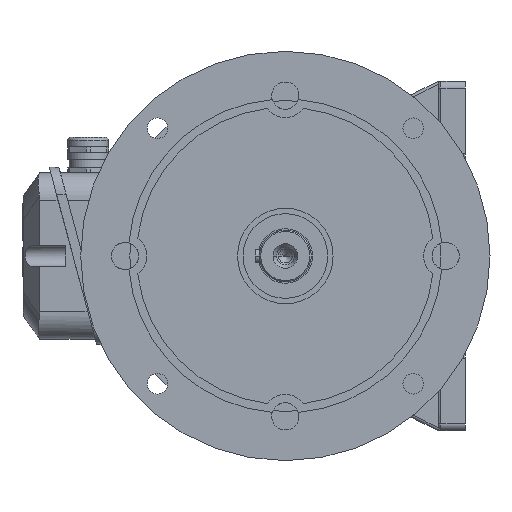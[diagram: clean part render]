
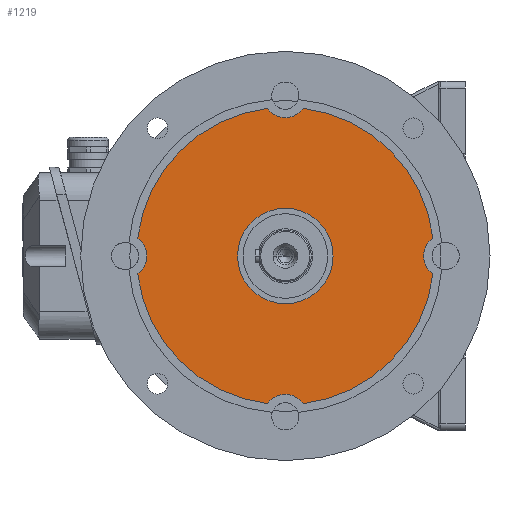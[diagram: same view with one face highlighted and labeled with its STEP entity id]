
A CAD part, left-side view. The second image highlights one B-rep face of the part: STEP entity #1219.
In plain terms, the highlighted planar face has unit normal (-1, 0, 0).
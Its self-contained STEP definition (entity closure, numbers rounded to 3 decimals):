
#95 = AXIS2_PLACEMENT_3D ( 'NONE', #12343, #17851, #25900 ) ;
#198 = CARTESIAN_POINT ( 'NONE',  ( -59.2, -108.204, 13.145 ) ) ;
#655 = CARTESIAN_POINT ( 'NONE',  ( -59.2, 0., 0. ) ) ;
#751 = CARTESIAN_POINT ( 'NONE',  ( -59.2, 0., 117.5 ) ) ;
#1219 = ADVANCED_FACE ( 'NONE', ( #31843, #27973 ), #6813, .T. ) ;
#1497 = AXIS2_PLACEMENT_3D ( 'NONE', #21139, #13261, #7383 ) ;
#1755 = ORIENTED_EDGE ( 'NONE', *, *, #23645, .T. ) ;
#1894 = CARTESIAN_POINT ( 'NONE',  ( -59.2, 35., 0. ) ) ;
#2282 = EDGE_CURVE ( 'NONE', #13662, #15485, #24876, .T. ) ;
#2551 = EDGE_CURVE ( 'NONE', #28121, #11618, #7501, .T. ) ;
#2573 = CIRCLE ( 'NONE', #30008, 16.1 ) ;
#3187 = DIRECTION ( 'NONE',  ( 0., -1., 0. ) ) ;
#3362 = AXIS2_PLACEMENT_3D ( 'NONE', #20047, #3668, #14945 ) ;
#3368 = CIRCLE ( 'NONE', #4512, 16.1 ) ;
#3461 = AXIS2_PLACEMENT_3D ( 'NONE', #30332, #16861, #16507 ) ;
#3638 = VERTEX_POINT ( 'NONE', #1894 ) ;
#3668 = DIRECTION ( 'NONE',  ( 1., 0., 0. ) ) ;
#4145 = ORIENTED_EDGE ( 'NONE', *, *, #4175, .T. ) ;
#4175 = EDGE_CURVE ( 'NONE', #32819, #15485, #26519, .T. ) ;
#4202 = DIRECTION ( 'NONE',  ( 1., 0., 0. ) ) ;
#4229 = CARTESIAN_POINT ( 'NONE',  ( -59.2, 0., -117.5 ) ) ;
#4476 = VERTEX_POINT ( 'NONE', #15171 ) ;
#4512 = AXIS2_PLACEMENT_3D ( 'NONE', #4229, #9743, #31231 ) ;
#4770 = DIRECTION ( 'NONE',  ( 1., 0., 0. ) ) ;
#5524 = ORIENTED_EDGE ( 'NONE', *, *, #24634, .F. ) ;
#5723 = EDGE_CURVE ( 'NONE', #9887, #3638, #11390, .T. ) ;
#6036 = DIRECTION ( 'NONE',  ( 1., 0., 0. ) ) ;
#6077 = VERTEX_POINT ( 'NONE', #26429 ) ;
#6813 = PLANE ( 'NONE',  #95 ) ;
#7383 = DIRECTION ( 'NONE',  ( 0., 1., 0. ) ) ;
#7501 = CIRCLE ( 'NONE', #3461, 109. ) ;
#7527 = DIRECTION ( 'NONE',  ( 0., -1., 0. ) ) ;
#8153 = EDGE_CURVE ( 'NONE', #6077, #11618, #2573, .T. ) ;
#8345 = AXIS2_PLACEMENT_3D ( 'NONE', #655, #19910, #19454 ) ;
#8746 = EDGE_LOOP ( 'NONE', ( #1755, #23576, #28208, #5524, #4145, #25223, #26062, #23333, #19835 ) ) ;
#8949 = AXIS2_PLACEMENT_3D ( 'NONE', #10060, #29266, #18426 ) ;
#9065 = EDGE_CURVE ( 'NONE', #3638, #9887, #11090, .T. ) ;
#9195 = CARTESIAN_POINT ( 'NONE',  ( -59.2, 117.5, 0. ) ) ;
#9585 = CARTESIAN_POINT ( 'NONE',  ( -59.2, 108.204, 13.145 ) ) ;
#9743 = DIRECTION ( 'NONE',  ( 1., 0., 0. ) ) ;
#9748 = DIRECTION ( 'NONE',  ( 1., 0., 0. ) ) ;
#9887 = VERTEX_POINT ( 'NONE', #17649 ) ;
#10060 = CARTESIAN_POINT ( 'NONE',  ( -59.2, 0., 0. ) ) ;
#10289 = CIRCLE ( 'NONE', #3362, 109. ) ;
#10709 = VERTEX_POINT ( 'NONE', #198 ) ;
#10976 = CARTESIAN_POINT ( 'NONE',  ( -59.2, 13.145, 108.204 ) ) ;
#11090 = CIRCLE ( 'NONE', #1497, 35. ) ;
#11145 = ORIENTED_EDGE ( 'NONE', *, *, #9065, .T. ) ;
#11390 = CIRCLE ( 'NONE', #8345, 35. ) ;
#11618 = VERTEX_POINT ( 'NONE', #17696 ) ;
#12147 = CARTESIAN_POINT ( 'NONE',  ( -59.2, 117.5, 0. ) ) ;
#12343 = CARTESIAN_POINT ( 'NONE',  ( -59.2, 35., 0. ) ) ;
#13261 = DIRECTION ( 'NONE',  ( 1., 0., 0. ) ) ;
#13662 = VERTEX_POINT ( 'NONE', #9585 ) ;
#14100 = CIRCLE ( 'NONE', #8949, 109. ) ;
#14403 = CARTESIAN_POINT ( 'NONE',  ( -59.2, -13.145, -108.204 ) ) ;
#14945 = DIRECTION ( 'NONE',  ( 0., 1., 0. ) ) ;
#15117 = CARTESIAN_POINT ( 'NONE',  ( -59.2, 0., 0. ) ) ;
#15171 = CARTESIAN_POINT ( 'NONE',  ( -59.2, -108.204, -13.145 ) ) ;
#15485 = VERTEX_POINT ( 'NONE', #10976 ) ;
#16507 = DIRECTION ( 'NONE',  ( 0., 1., 0. ) ) ;
#16861 = DIRECTION ( 'NONE',  ( 1., 0., 0. ) ) ;
#16964 = AXIS2_PLACEMENT_3D ( 'NONE', #12147, #9748, #34237 ) ;
#17070 = EDGE_CURVE ( 'NONE', #13662, #6077, #17349, .T. ) ;
#17349 = CIRCLE ( 'NONE', #16964, 16.1 ) ;
#17649 = CARTESIAN_POINT ( 'NONE',  ( -59.2, -35., 0. ) ) ;
#17696 = CARTESIAN_POINT ( 'NONE',  ( -59.2, 108.204, -13.145 ) ) ;
#17851 = DIRECTION ( 'NONE',  ( -1., 0., 0. ) ) ;
#17854 = DIRECTION ( 'NONE',  ( 0., 1., 0. ) ) ;
#18096 = VERTEX_POINT ( 'NONE', #14403 ) ;
#18283 = ORIENTED_EDGE ( 'NONE', *, *, #5723, .T. ) ;
#18426 = DIRECTION ( 'NONE',  ( 0., 1., 0. ) ) ;
#18790 = CARTESIAN_POINT ( 'NONE',  ( -59.2, -117.5, 0. ) ) ;
#19454 = DIRECTION ( 'NONE',  ( 0., 1., 0. ) ) ;
#19835 = ORIENTED_EDGE ( 'NONE', *, *, #2551, .F. ) ;
#19910 = DIRECTION ( 'NONE',  ( 1., 0., 0. ) ) ;
#20047 = CARTESIAN_POINT ( 'NONE',  ( -59.2, 0., 0. ) ) ;
#21139 = CARTESIAN_POINT ( 'NONE',  ( -59.2, 0., 0. ) ) ;
#22214 = EDGE_CURVE ( 'NONE', #4476, #10709, #23192, .T. ) ;
#22521 = EDGE_CURVE ( 'NONE', #4476, #18096, #10289, .T. ) ;
#23192 = CIRCLE ( 'NONE', #34177, 16.1 ) ;
#23333 = ORIENTED_EDGE ( 'NONE', *, *, #8153, .T. ) ;
#23576 = ORIENTED_EDGE ( 'NONE', *, *, #22521, .F. ) ;
#23645 = EDGE_CURVE ( 'NONE', #28121, #18096, #3368, .T. ) ;
#24283 = CARTESIAN_POINT ( 'NONE',  ( -59.2, 13.145, -108.204 ) ) ;
#24634 = EDGE_CURVE ( 'NONE', #32819, #10709, #14100, .T. ) ;
#24876 = CIRCLE ( 'NONE', #26221, 109. ) ;
#25223 = ORIENTED_EDGE ( 'NONE', *, *, #2282, .F. ) ;
#25900 = DIRECTION ( 'NONE',  ( 0., 1., 0. ) ) ;
#25960 = EDGE_LOOP ( 'NONE', ( #11145, #18283 ) ) ;
#26062 = ORIENTED_EDGE ( 'NONE', *, *, #17070, .T. ) ;
#26221 = AXIS2_PLACEMENT_3D ( 'NONE', #15117, #4202, #17854 ) ;
#26429 = CARTESIAN_POINT ( 'NONE',  ( -59.2, 101.4, 0. ) ) ;
#26519 = CIRCLE ( 'NONE', #34071, 16.1 ) ;
#27973 = FACE_BOUND ( 'NONE', #25960, .T. ) ;
#28121 = VERTEX_POINT ( 'NONE', #24283 ) ;
#28208 = ORIENTED_EDGE ( 'NONE', *, *, #22214, .T. ) ;
#28515 = DIRECTION ( 'NONE',  ( 1., 0., 0. ) ) ;
#29266 = DIRECTION ( 'NONE',  ( 1., 0., 0. ) ) ;
#29746 = CARTESIAN_POINT ( 'NONE',  ( -59.2, -13.145, 108.204 ) ) ;
#30008 = AXIS2_PLACEMENT_3D ( 'NONE', #9195, #28515, #33681 ) ;
#30332 = CARTESIAN_POINT ( 'NONE',  ( -59.2, 0., 0. ) ) ;
#31231 = DIRECTION ( 'NONE',  ( 0., -1., 0. ) ) ;
#31843 = FACE_OUTER_BOUND ( 'NONE', #8746, .T. ) ;
#32819 = VERTEX_POINT ( 'NONE', #29746 ) ;
#33681 = DIRECTION ( 'NONE',  ( 0., -1., 0. ) ) ;
#34071 = AXIS2_PLACEMENT_3D ( 'NONE', #751, #6036, #3187 ) ;
#34177 = AXIS2_PLACEMENT_3D ( 'NONE', #18790, #4770, #7527 ) ;
#34237 = DIRECTION ( 'NONE',  ( 0., -1., 0. ) ) ;
